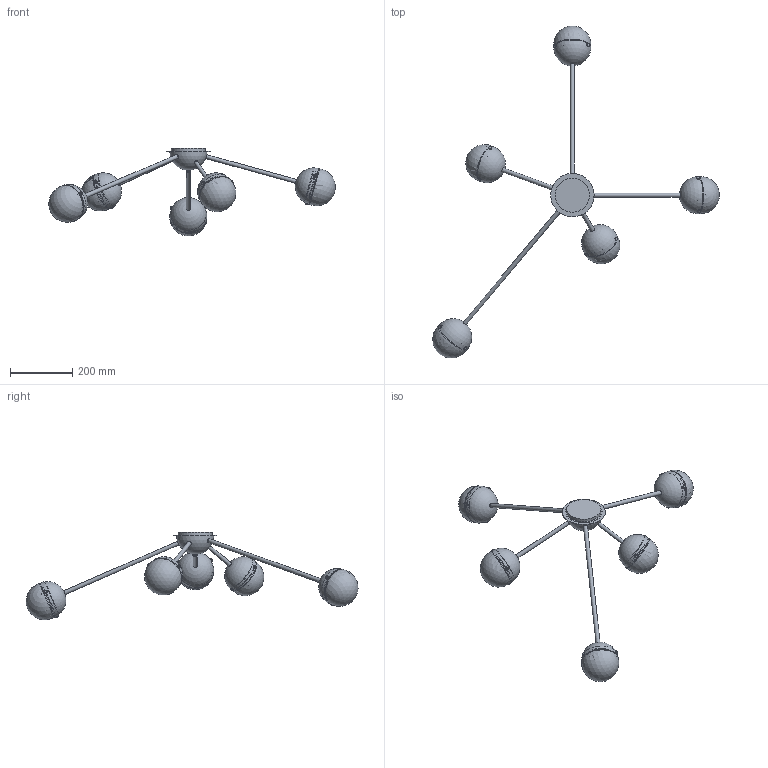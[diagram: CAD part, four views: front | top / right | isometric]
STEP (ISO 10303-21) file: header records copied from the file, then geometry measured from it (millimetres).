
FILE_DESCRIPTION(/* description */ (''),/* implementation_level */ '2;1');
FILE_NAME(/* name */ 'T:\B236 Molecule Spark Flush-Mount\Pliki bryłowe handlowe\B236 Molecule Spark 3D files_na stronę\B236 Molecule Spark.stp',/* time_stamp */ '2022-02-02T15:31:05+01:00',/* author */ ('Mariusz Awariusz'),/* organization */ (''),/* preprocessor_version */ 'ST-DEVELOPER v18.1',/* originating_system */ 'Autodesk Inventor 2022',/* authorisation */ '');
FILE_SCHEMA (('AUTOMOTIVE_DESIGN { 1 0 10303 214 3 1 1 }'));
Length unit declared in the file: millimetre
Products named in the file (1): B236 Molecule Spark Flush-Mount CE V1__na potrzeby plików 3D_2_ja
ko część_korpusy bryłowe
Bounding box: 923.11 x 1069.18 x 283.13 mm (x, y, z)
Volume: 716586.3 mm3; surface area: 710629.7 mm2
Topology: 936 solids, 936 shells, 7583 faces, 17131 edges, 11386 vertices
Faces by surface type: plane 6365, cylinder 977, bspline 120, torus 50, sphere 40, cone 31
Full cylindrical faces by diameter (mm): 3.242 x15, 3.7 x2, 4 x15, 6 x15, 10 x13, 13 x5, 109 x5, 110 x1, 112 x5, 140 x1
Entity records: 213704 total; most frequent: CARTESIAN_POINT 42392, ORIENTED_EDGE 34220, DIRECTION 33938, EDGE_CURVE 17110, LINE 14526, VECTOR 14526, VERTEX_POINT 11386, AXIS2_PLACEMENT_3D 9706
